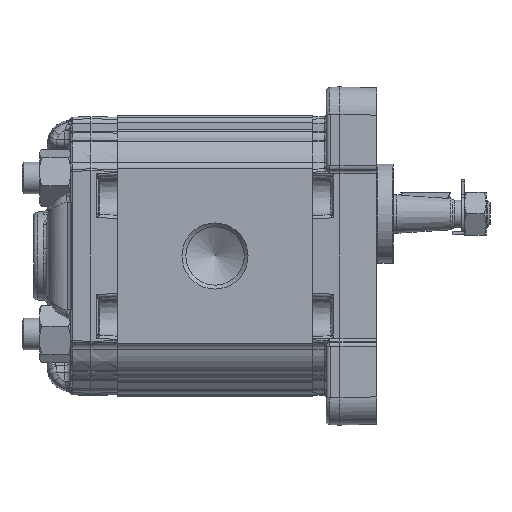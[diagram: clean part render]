
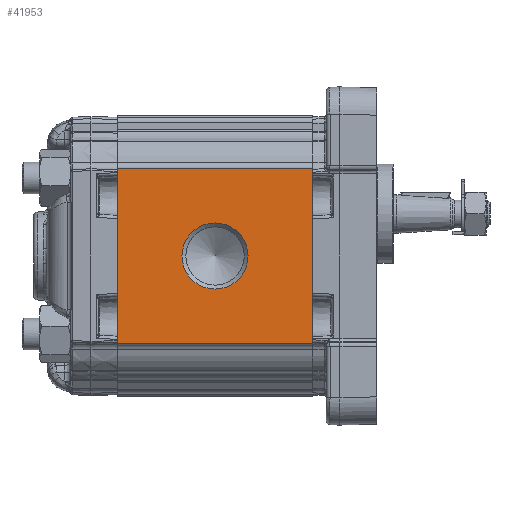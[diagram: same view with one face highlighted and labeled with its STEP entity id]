
A CAD part, left-side view. The second image highlights one B-rep face of the part: STEP entity #41953.
In plain terms, the highlighted planar face has unit normal (-1, 0, 0).
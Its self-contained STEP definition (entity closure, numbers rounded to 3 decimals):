
#4040=LINE('',#97348,#6143);
#4050=LINE('',#97449,#6153);
#4069=LINE('',#97497,#6172);
#4070=LINE('',#97499,#6173);
#6143=VECTOR('',#73627,1000.);
#6153=VECTOR('',#73719,1000.);
#6172=VECTOR('',#73774,1000.);
#6173=VECTOR('',#73777,1000.);
#7725=PLANE('',#65584);
#13405=ORIENTED_EDGE('',*,*,#23481,.F.);
#13406=ORIENTED_EDGE('',*,*,#23579,.T.);
#13407=ORIENTED_EDGE('',*,*,#23551,.T.);
#13408=ORIENTED_EDGE('',*,*,#23580,.T.);
#13409=ORIENTED_EDGE('',*,*,#23501,.F.);
#23481=EDGE_CURVE('',#28909,#28909,#32296,.F.);
#23501=EDGE_CURVE('',#28930,#28931,#4040,.T.);
#23551=EDGE_CURVE('',#28981,#28980,#4050,.T.);
#23579=EDGE_CURVE('',#28930,#28981,#4069,.T.);
#23580=EDGE_CURVE('',#28980,#28931,#4070,.F.);
#28909=VERTEX_POINT('',#97304);
#28930=VERTEX_POINT('',#97347);
#28931=VERTEX_POINT('',#97349);
#28980=VERTEX_POINT('',#97448);
#28981=VERTEX_POINT('',#97450);
#32296=CIRCLE('',#65488,8.475);
#34977=EDGE_LOOP('',(#13405));
#34978=EDGE_LOOP('',(#13406,#13407,#13408,#13409));
#38115=FACE_BOUND('',#34977,.T.);
#38116=FACE_BOUND('',#34978,.T.);
#41953=ADVANCED_FACE('',(#38115,#38116),#7725,.T.);
#65488=AXIS2_PLACEMENT_3D('',#97303,#73584,#73585);
#65584=AXIS2_PLACEMENT_3D('',#97526,#73820,#73821);
#73584=DIRECTION('',(1.,0.,0.));
#73585=DIRECTION('',(0.,0.,-1.));
#73627=DIRECTION('',(0.,0.,1.));
#73719=DIRECTION('',(0.,0.,1.));
#73774=DIRECTION('',(0.,-1.,0.));
#73777=DIRECTION('',(0.,-1.,0.));
#73820=DIRECTION('',(-1.,0.,0.));
#73821=DIRECTION('',(0.,0.,1.));
#97303=CARTESIAN_POINT('',(-33.,25.,0.));
#97304=CARTESIAN_POINT('',(-33.,25.,-8.475));
#97347=CARTESIAN_POINT('',(-33.,50.,-22.5));
#97348=CARTESIAN_POINT('',(-33.,50.,-21.711));
#97349=CARTESIAN_POINT('',(-33.,50.,22.5));
#97448=CARTESIAN_POINT('',(-33.,0.,22.5));
#97449=CARTESIAN_POINT('',(-33.,0.,-21.711));
#97450=CARTESIAN_POINT('',(-33.,0.,-22.5));
#97497=CARTESIAN_POINT('',(-33.,50.,-22.5));
#97499=CARTESIAN_POINT('',(-33.,50.,22.5));
#97526=CARTESIAN_POINT('',(-33.,127.919,48.138));
